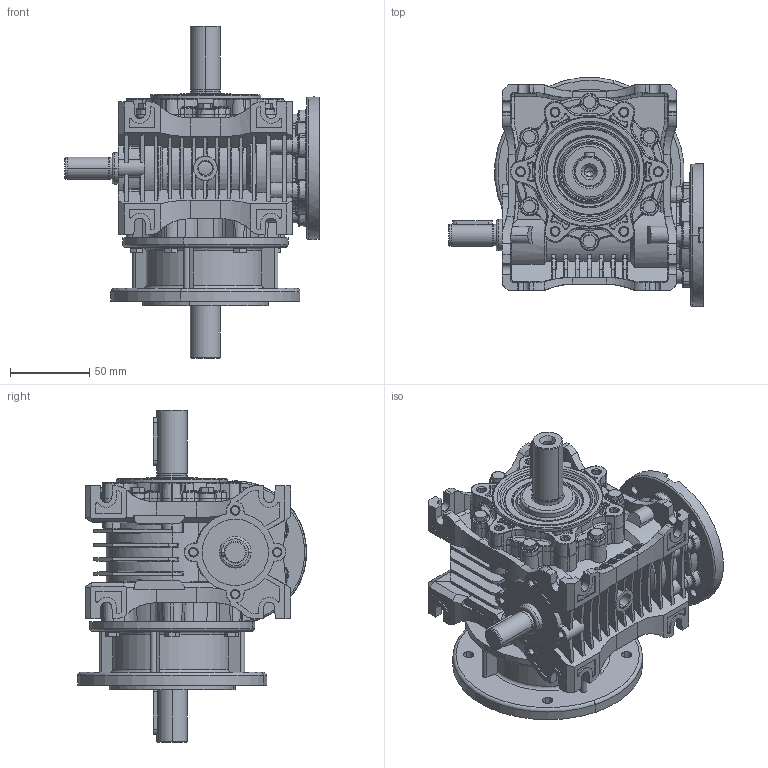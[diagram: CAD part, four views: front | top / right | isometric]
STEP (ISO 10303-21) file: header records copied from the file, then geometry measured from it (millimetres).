
FILE_DESCRIPTION (( 'STEP AP203' ), '1' );
FILE_NAME ('MR-40_90-11-WBS-K120_1-WD_1-3D.STEP', '2023-06-02T09:48:35', ( '' ), ( '' ), 'SwSTEP 2.0', 'SolidWorks 2022', '' );
FILE_SCHEMA (( 'CONFIG_CONTROL_DESIGN' ));
Products named in the file (1): MR-40_90-11-WBS-K120_1-WD_1-3D
Bounding box: 161 x 144.83 x 210 mm (x, y, z)
Volume: 987651.6 mm3; surface area: 215296.4 mm2
Topology: 1 solids, 37 shells, 3884 faces, 9750 edges, 6004 vertices
Faces by surface type: plane 1217, cone 894, cylinder 697, bspline 596, torus 398, sphere 82
Entity records: 138979 total; most frequent: CARTESIAN_POINT 50672, ORIENTED_EDGE 19384, DIRECTION 17844, EDGE_CURVE 9692, AXIS2_PLACEMENT_3D 7131, VERTEX_POINT 6004, EDGE_LOOP 4052, FACE_OUTER_BOUND 3884
